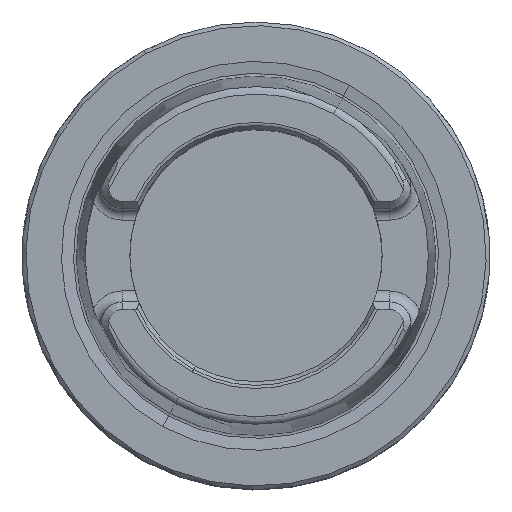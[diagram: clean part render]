
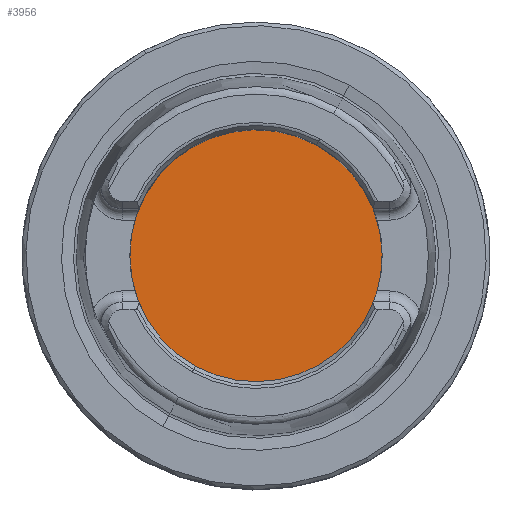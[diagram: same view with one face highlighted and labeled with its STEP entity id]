
A CAD part, top view. The second image highlights one B-rep face of the part: STEP entity #3956.
In plain terms, the highlighted planar face has unit normal (0, 0, 1).
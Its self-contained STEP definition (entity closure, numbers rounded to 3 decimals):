
#3936=AXIS2_PLACEMENT_3D('Plane Axis2P3D',#3933,#3934,#3935) ;
#3940=AXIS2_PLACEMENT_3D('Circle Axis2P3D',#3938,#3939,$) ;
#3949=AXIS2_PLACEMENT_3D('Circle Axis2P3D',#3947,#3948,$) ;
#3933=CARTESIAN_POINT('Axis2P3D Location',(0.,-15.75,-10.)) ;
#3938=CARTESIAN_POINT('Axis2P3D Location',(0.,0.,-10.)) ;
#3942=CARTESIAN_POINT('Vertex',(8.15,14.919,-10.)) ;
#3944=CARTESIAN_POINT('Vertex',(-8.15,-14.919,-10.)) ;
#3947=CARTESIAN_POINT('Axis2P3D Location',(0.,0.,-10.)) ;
#3934=DIRECTION('Axis2P3D Direction',(0.,0.,-1.)) ;
#3935=DIRECTION('Axis2P3D XDirection',(-1.,0.,0.)) ;
#3939=DIRECTION('Axis2P3D Direction',(0.,0.,-1.)) ;
#3948=DIRECTION('Axis2P3D Direction',(0.,0.,-1.)) ;
#3953=ORIENTED_EDGE('',*,*,#3946,.T.) ;
#3954=ORIENTED_EDGE('',*,*,#3951,.T.) ;
#3956=ADVANCED_FACE('NO_CUT',(#3955),#3937,.F.) ;
#3941=CIRCLE('generated circle',#3940,17.) ;
#3950=CIRCLE('generated circle',#3949,17.) ;
#3946=EDGE_CURVE('',#3943,#3945,#3941,.F.) ;
#3951=EDGE_CURVE('',#3945,#3943,#3950,.F.) ;
#3952=EDGE_LOOP('',(#3953,#3954)) ;
#3955=FACE_OUTER_BOUND('',#3952,.T.) ;
#3937=PLANE('',#3936) ;
#3943=VERTEX_POINT('',#3942) ;
#3945=VERTEX_POINT('',#3944) ;
